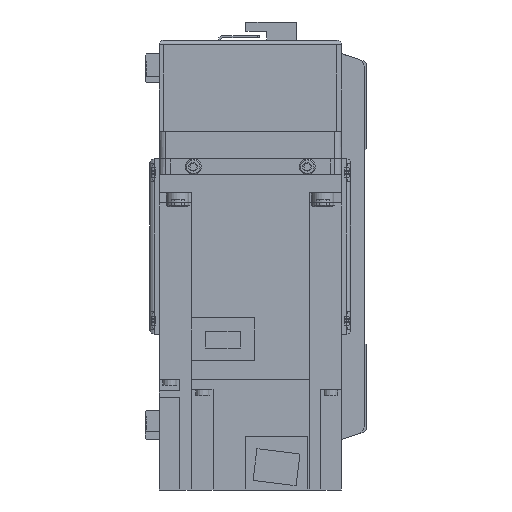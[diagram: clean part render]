
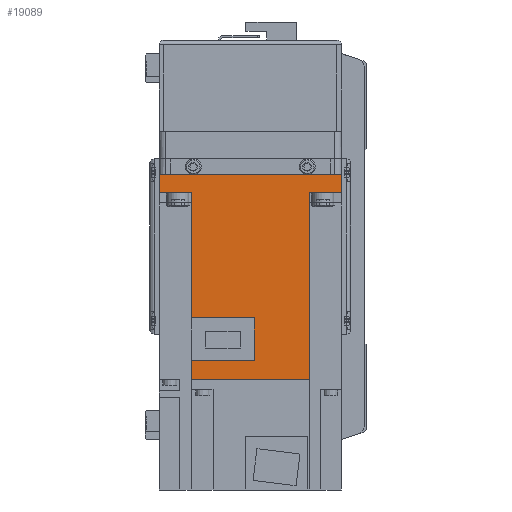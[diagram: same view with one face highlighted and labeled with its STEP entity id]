
A CAD part, left-side view. The second image highlights one B-rep face of the part: STEP entity #19089.
In plain terms, the highlighted planar face has unit normal (-1, 0, 0) as drawn and (1, 0, 0) by its records, which use the part's own axes.
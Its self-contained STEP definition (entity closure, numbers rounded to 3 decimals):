
#2137=ORIENTED_EDGE('',*,*,#7365,.F.);
#2138=ORIENTED_EDGE('',*,*,#7366,.F.);
#2139=ORIENTED_EDGE('',*,*,#7367,.F.);
#2140=ORIENTED_EDGE('',*,*,#7368,.T.);
#2141=ORIENTED_EDGE('',*,*,#7369,.F.);
#2142=ORIENTED_EDGE('',*,*,#7370,.T.);
#2143=ORIENTED_EDGE('',*,*,#7371,.T.);
#2144=ORIENTED_EDGE('',*,*,#7372,.F.);
#2145=ORIENTED_EDGE('',*,*,#7373,.F.);
#2146=ORIENTED_EDGE('',*,*,#7374,.F.);
#2147=ORIENTED_EDGE('',*,*,#7375,.F.);
#2148=ORIENTED_EDGE('',*,*,#7376,.F.);
#7365=EDGE_CURVE('',#10039,#10040,#11941,.T.);
#7366=EDGE_CURVE('',#10041,#10039,#11942,.T.);
#7367=EDGE_CURVE('',#10042,#10041,#11943,.T.);
#7368=EDGE_CURVE('',#10042,#10043,#11944,.T.);
#7369=EDGE_CURVE('',#10044,#10043,#11945,.T.);
#7370=EDGE_CURVE('',#10044,#10045,#11946,.T.);
#7371=EDGE_CURVE('',#10045,#10046,#11947,.T.);
#7372=EDGE_CURVE('',#10047,#10046,#11948,.T.);
#7373=EDGE_CURVE('',#10048,#10047,#11949,.T.);
#7374=EDGE_CURVE('',#10049,#10048,#11950,.T.);
#7375=EDGE_CURVE('',#10050,#10049,#11951,.T.);
#7376=EDGE_CURVE('',#10040,#10050,#11952,.T.);
#10039=VERTEX_POINT('',#28750);
#10040=VERTEX_POINT('',#28751);
#10041=VERTEX_POINT('',#28753);
#10042=VERTEX_POINT('',#28755);
#10043=VERTEX_POINT('',#28757);
#10044=VERTEX_POINT('',#28759);
#10045=VERTEX_POINT('',#28761);
#10046=VERTEX_POINT('',#28763);
#10047=VERTEX_POINT('',#28765);
#10048=VERTEX_POINT('',#28767);
#10049=VERTEX_POINT('',#28769);
#10050=VERTEX_POINT('',#28771);
#11941=LINE('',#28749,#13647);
#11942=LINE('',#28752,#13648);
#11943=LINE('',#28754,#13649);
#11944=LINE('',#28756,#13650);
#11945=LINE('',#28758,#13651);
#11946=LINE('',#28760,#13652);
#11947=LINE('',#28762,#13653);
#11948=LINE('',#28764,#13654);
#11949=LINE('',#28766,#13655);
#11950=LINE('',#28768,#13656);
#11951=LINE('',#28770,#13657);
#11952=LINE('',#28772,#13658);
#13647=VECTOR('',#22917,1000.);
#13648=VECTOR('',#22918,1000.);
#13649=VECTOR('',#22919,1000.);
#13650=VECTOR('',#22920,1000.);
#13651=VECTOR('',#22921,1000.);
#13652=VECTOR('',#22922,1000.);
#13653=VECTOR('',#22923,1000.);
#13654=VECTOR('',#22924,1000.);
#13655=VECTOR('',#22925,1000.);
#13656=VECTOR('',#22926,1000.);
#13657=VECTOR('',#22927,1000.);
#13658=VECTOR('',#22928,1000.);
#15345=EDGE_LOOP('',(#2137,#2138,#2139,#2140,#2141,#2142,#2143,#2144,#2145,
#2146,#2147,#2148));
#16897=FACE_BOUND('',#15345,.T.);
#18342=PLANE('',#20415);
#19089=ADVANCED_FACE('',(#16897),#18342,.F.);
#20415=AXIS2_PLACEMENT_3D('',#28748,#22915,#22916);
#22915=DIRECTION('',(-1.,0.,0.));
#22916=DIRECTION('',(0.,0.,1.));
#22917=DIRECTION('',(0.,0.,1.));
#22918=DIRECTION('',(0.,-1.,0.));
#22919=DIRECTION('',(0.,0.,-1.));
#22920=DIRECTION('',(0.,-1.,0.));
#22921=DIRECTION('',(0.,0.,-1.));
#22922=DIRECTION('',(0.,-1.,0.));
#22923=DIRECTION('',(0.,0.,-1.));
#22924=DIRECTION('',(0.,-1.,0.));
#22925=DIRECTION('',(0.,0.,-1.));
#22926=DIRECTION('',(0.,-1.,0.));
#22927=DIRECTION('',(0.,0.,-1.));
#22928=DIRECTION('',(0.,-1.,0.));
#28748=CARTESIAN_POINT('',(40.,89.8,40.));
#28749=CARTESIAN_POINT('',(40.,81.4,-26.));
#28750=CARTESIAN_POINT('',(40.,81.4,-25.95));
#28751=CARTESIAN_POINT('',(40.,81.4,1.8));
#28752=CARTESIAN_POINT('',(40.,158.,-25.95));
#28753=CARTESIAN_POINT('',(40.,89.8,-25.95));
#28754=CARTESIAN_POINT('',(40.,89.8,40.));
#28755=CARTESIAN_POINT('',(40.,89.8,25.95));
#28756=CARTESIAN_POINT('',(40.,158.,25.95));
#28757=CARTESIAN_POINT('',(40.,8.,25.95));
#28758=CARTESIAN_POINT('',(40.,8.,40.));
#28759=CARTESIAN_POINT('',(40.,8.,40.));
#28760=CARTESIAN_POINT('',(40.,89.8,40.));
#28761=CARTESIAN_POINT('',(40.,0.,40.));
#28762=CARTESIAN_POINT('',(40.,0.,40.));
#28763=CARTESIAN_POINT('',(40.,0.,-40.));
#28764=CARTESIAN_POINT('',(40.,89.8,-40.));
#28765=CARTESIAN_POINT('',(40.,8.,-40.));
#28766=CARTESIAN_POINT('',(40.,8.,40.));
#28767=CARTESIAN_POINT('',(40.,8.,-25.95));
#28768=CARTESIAN_POINT('',(40.,158.,-25.95));
#28769=CARTESIAN_POINT('',(40.,62.8,-25.95));
#28770=CARTESIAN_POINT('',(40.,62.8,1.8));
#28771=CARTESIAN_POINT('',(40.,62.8,1.8));
#28772=CARTESIAN_POINT('',(40.,81.4,1.8));
